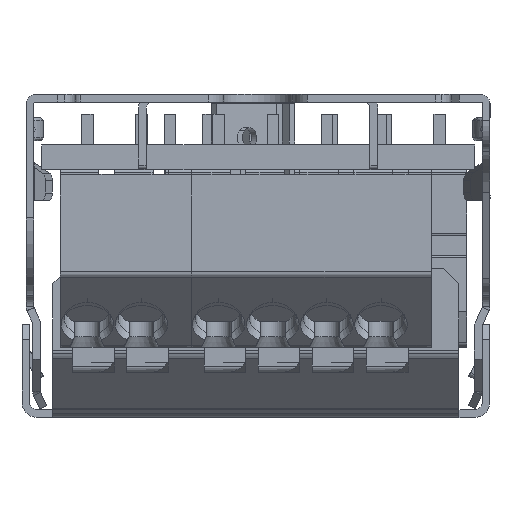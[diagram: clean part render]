
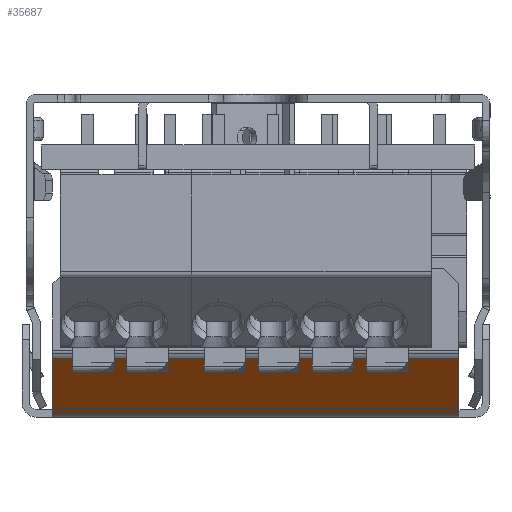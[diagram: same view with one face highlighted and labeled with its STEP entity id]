
A CAD part, front view. The second image highlights one B-rep face of the part: STEP entity #35687.
In plain terms, the highlighted planar face has unit normal (0, -0.707, -0.707).
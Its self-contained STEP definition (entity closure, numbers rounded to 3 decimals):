
#396 = DIRECTION ( 'NONE',  ( 0., 0.707, -0.707 ) ) ;
#1025 = CARTESIAN_POINT ( 'NONE',  ( 28.008, -329.402, -15.83 ) ) ;
#1652 = LINE ( 'NONE', #14880, #17030 ) ;
#2861 = AXIS2_PLACEMENT_3D ( 'NONE', #26554, #19632, #44219 ) ;
#3471 = CARTESIAN_POINT ( 'NONE',  ( 28.008, -325.848, -19.383 ) ) ;
#3549 = CARTESIAN_POINT ( 'NONE',  ( 1.738, -144.576, -200.656 ) ) ;
#3729 = ORIENTED_EDGE ( 'NONE', *, *, #14816, .F. ) ;
#5258 = FACE_OUTER_BOUND ( 'NONE', #33526, .T. ) ;
#12871 = VERTEX_POINT ( 'NONE', #3471 ) ;
#14101 = ORIENTED_EDGE ( 'NONE', *, *, #32969, .F. ) ;
#14628 = CARTESIAN_POINT ( 'NONE',  ( -223.716, -329.402, -15.83 ) ) ;
#14816 = EDGE_CURVE ( 'NONE', #19620, #28302, #41307, .T. ) ;
#14880 = CARTESIAN_POINT ( 'NONE',  ( -223.716, -325.848, -19.383 ) ) ;
#17030 = VECTOR ( 'NONE', #32256, 1000. ) ;
#19620 = VERTEX_POINT ( 'NONE', #34463 ) ;
#19632 = DIRECTION ( 'NONE',  ( 0., 0.707, 0.707 ) ) ;
#21209 = DIRECTION ( 'NONE',  ( 0., 0.707, -0.707 ) ) ;
#22455 = CARTESIAN_POINT ( 'NONE',  ( 1.738, -325.848, -19.383 ) ) ;
#23642 = EDGE_CURVE ( 'NONE', #19620, #38787, #30205, .T. ) ;
#24801 = ORIENTED_EDGE ( 'NONE', *, *, #23642, .T. ) ;
#24958 = CARTESIAN_POINT ( 'NONE',  ( 28.008, -144.576, -200.656 ) ) ;
#26554 = CARTESIAN_POINT ( 'NONE',  ( -223.716, -144.576, -200.656 ) ) ;
#27983 = VECTOR ( 'NONE', #21209, 1000. ) ;
#28302 = VERTEX_POINT ( 'NONE', #1025 ) ;
#29019 = EDGE_CURVE ( 'NONE', #38787, #12871, #1652, .T. ) ;
#29941 = ORIENTED_EDGE ( 'NONE', *, *, #29019, .T. ) ;
#30205 = LINE ( 'NONE', #3549, #27983 ) ;
#30848 = VECTOR ( 'NONE', #42760, 1000. ) ;
#32256 = DIRECTION ( 'NONE',  ( 1., 0., 0. ) ) ;
#32444 = VECTOR ( 'NONE', #396, 1000. ) ;
#32969 = EDGE_CURVE ( 'NONE', #28302, #12871, #39556, .T. ) ;
#33526 = EDGE_LOOP ( 'NONE', ( #24801, #29941, #14101, #3729 ) ) ;
#34463 = CARTESIAN_POINT ( 'NONE',  ( 1.738, -329.402, -15.83 ) ) ;
#35687 = ADVANCED_FACE ( 'NONE', ( #5258 ), #40692, .F. ) ;
#38787 = VERTEX_POINT ( 'NONE', #22455 ) ;
#39556 = LINE ( 'NONE', #24958, #32444 ) ;
#40692 = PLANE ( 'NONE',  #2861 ) ;
#41307 = LINE ( 'NONE', #14628, #30848 ) ;
#42760 = DIRECTION ( 'NONE',  ( 1., 0., 0. ) ) ;
#44219 = DIRECTION ( 'NONE',  ( 0., -0.707, 0.707 ) ) ;
